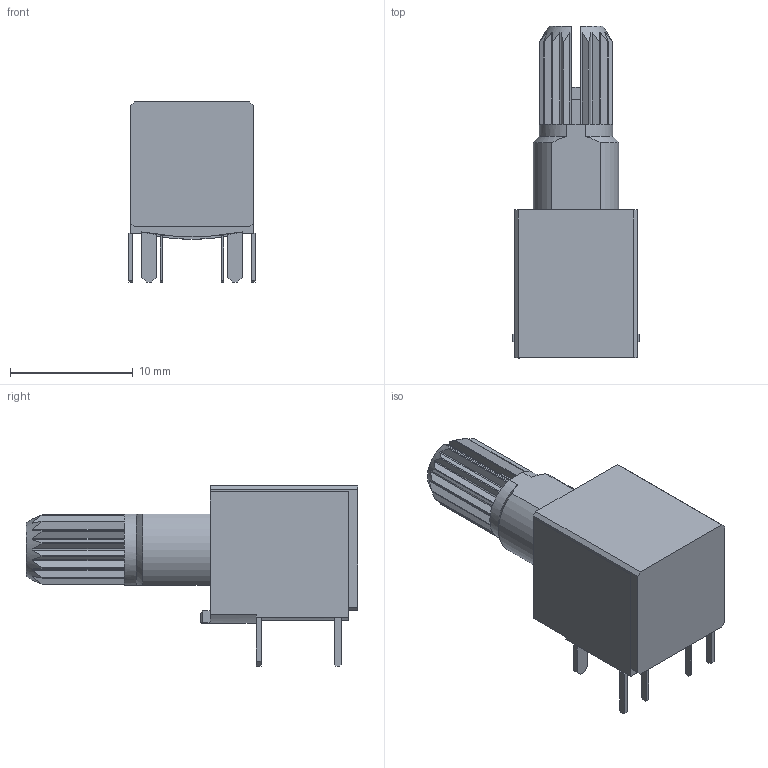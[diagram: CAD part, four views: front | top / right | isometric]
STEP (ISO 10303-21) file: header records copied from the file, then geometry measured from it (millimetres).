
FILE_DESCRIPTION (( 'STEP AP214' ), '1' );
FILE_NAME ('SRBM1L0800.STEP', '2011-04-04T10:29:59', ( '' ), ( '' ), 'SwSTEP 2.0', 'SolidWorks 2007', '' );
FILE_SCHEMA (( 'AUTOMOTIVE_DESIGN' ));
Length unit declared in the file: millimetre
Products named in the file (1): SRBM1L0800
Bounding box: 10.3 x 27.05 x 14.7 mm (x, y, z)
Volume: 1710.4 mm3; surface area: 1153.2 mm2
Topology: 1 solids, 2 shells, 184 faces, 514 edges, 337 vertices
Faces by surface type: plane 161, cylinder 13, cone 10
Entity records: 7452 total; most frequent: CARTESIAN_POINT 1237, ORIENTED_EDGE 1028, DIRECTION 899, EDGE_CURVE 514, VECTOR 365, LINE 365, VERTEX_POINT 337, AXIS2_PLACEMENT_3D 267
